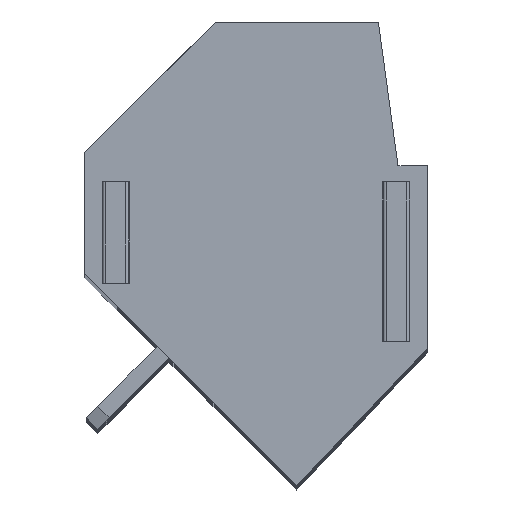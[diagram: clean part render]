
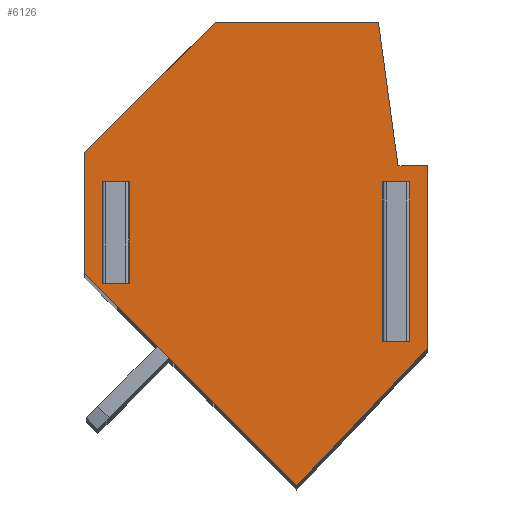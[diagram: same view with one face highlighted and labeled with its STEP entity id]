
A CAD part, top view. The second image highlights one B-rep face of the part: STEP entity #6126.
In plain terms, the highlighted planar face has unit normal (0, 0, 1).
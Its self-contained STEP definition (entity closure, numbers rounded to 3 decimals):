
#4382 = VERTEX_POINT ( 'NONE', #28915 ) ;
#4384 = EDGE_CURVE ( 'NONE', #4399, #4382, #28914, .T. ) ;
#4387 = EDGE_CURVE ( 'NONE', #4388, #4412, #28904, .T. ) ;
#4388 = VERTEX_POINT ( 'NONE', #28900 ) ;
#4399 = VERTEX_POINT ( 'NONE', #28949 ) ;
#4402 = VERTEX_POINT ( 'NONE', #28944 ) ;
#4404 = EDGE_CURVE ( 'NONE', #4405, #4402, #28943, .T. ) ;
#4405 = VERTEX_POINT ( 'NONE', #28939 ) ;
#4412 = VERTEX_POINT ( 'NONE', #28923 ) ;
#4420 = EDGE_CURVE ( 'NONE', #4435, #4445, #28986, .T. ) ;
#4429 = VERTEX_POINT ( 'NONE', #28969 ) ;
#4435 = VERTEX_POINT ( 'NONE', #28964 ) ;
#4437 = EDGE_CURVE ( 'NONE', #4438, #4435, #28963, .T. ) ;
#4438 = VERTEX_POINT ( 'NONE', #28959 ) ;
#4445 = VERTEX_POINT ( 'NONE', #29014 ) ;
#4451 = EDGE_CURVE ( 'NONE', #4382, #4388, #29013, .T. ) ;
#4457 = EDGE_CURVE ( 'NONE', #4412, #4399, #29003, .T. ) ;
#4476 = VERTEX_POINT ( 'NONE', #29037 ) ;
#4478 = EDGE_CURVE ( 'NONE', #4479, #4476, #29036, .T. ) ;
#4479 = VERTEX_POINT ( 'NONE', #29031 ) ;
#4487 = EDGE_CURVE ( 'NONE', #4445, #4429, #29085, .T. ) ;
#4496 = EDGE_CURVE ( 'NONE', #4429, #4438, #29075, .T. ) ;
#4908 = EDGE_CURVE ( 'NONE', #4979, #4405, #29517, .T. ) ;
#4979 = VERTEX_POINT ( 'NONE', #29594 ) ;
#5153 = EDGE_CURVE ( 'NONE', #4402, #4479, #29702, .T. ) ;
#5185 = VERTEX_POINT ( 'NONE', #29731 ) ;
#5190 = EDGE_CURVE ( 'NONE', #5185, #4979, #29792, .T. ) ;
#5976 = EDGE_CURVE ( 'NONE', #5977, #5185, #32137, .T. ) ;
#5977 = VERTEX_POINT ( 'NONE', #32133 ) ;
#6115 = EDGE_CURVE ( 'NONE', #6183, #4476, #32210, .T. ) ;
#6126 = ADVANCED_FACE ( 'NONE', ( #32250, #32249, #32248 ), #32247, .T. ) ;
#6127 = EDGE_LOOP ( 'NONE', ( #6195, #6196, #6197, #6198 ) ) ;
#6183 = VERTEX_POINT ( 'NONE', #32269 ) ;
#6184 = ORIENTED_EDGE ( 'NONE', *, *, #6185, .F. ) ;
#6185 = EDGE_CURVE ( 'NONE', #5977, #6183, #32268, .T. ) ;
#6186 = ORIENTED_EDGE ( 'NONE', *, *, #5976, .T. ) ;
#6187 = ORIENTED_EDGE ( 'NONE', *, *, #5190, .T. ) ;
#6188 = ORIENTED_EDGE ( 'NONE', *, *, #4908, .T. ) ;
#6189 = ORIENTED_EDGE ( 'NONE', *, *, #4404, .T. ) ;
#6191 = ORIENTED_EDGE ( 'NONE', *, *, #5153, .T. ) ;
#6192 = ORIENTED_EDGE ( 'NONE', *, *, #4478, .T. ) ;
#6195 = ORIENTED_EDGE ( 'NONE', *, *, #4487, .T. ) ;
#6196 = ORIENTED_EDGE ( 'NONE', *, *, #4496, .T. ) ;
#6197 = ORIENTED_EDGE ( 'NONE', *, *, #4437, .T. ) ;
#6198 = ORIENTED_EDGE ( 'NONE', *, *, #4420, .T. ) ;
#6199 = EDGE_LOOP ( 'NONE', ( #6200, #6201, #6202, #6203 ) ) ;
#6200 = ORIENTED_EDGE ( 'NONE', *, *, #4384, .T. ) ;
#6201 = ORIENTED_EDGE ( 'NONE', *, *, #4451, .T. ) ;
#6202 = ORIENTED_EDGE ( 'NONE', *, *, #4387, .T. ) ;
#6203 = ORIENTED_EDGE ( 'NONE', *, *, #4457, .T. ) ;
#6204 = EDGE_LOOP ( 'NONE', ( #6205, #6184, #6186, #6187, #6188, #6189, #6191, #6192 ) ) ;
#6205 = ORIENTED_EDGE ( 'NONE', *, *, #6115, .F. ) ;
#28900 = CARTESIAN_POINT ( 'NONE',  ( 3.051, 3., 0. ) ) ;
#28901 = DIRECTION ( 'NONE',  ( 0., -1., 0. ) ) ;
#28902 = VECTOR ( 'NONE', #28901, 1000. ) ;
#28903 = CARTESIAN_POINT ( 'NONE',  ( 3.051, 0.8, 0. ) ) ;
#28904 = LINE ( 'NONE', #28903, #28902 ) ;
#28911 = DIRECTION ( 'NONE',  ( 0., 1., 0. ) ) ;
#28912 = VECTOR ( 'NONE', #28911, 1000. ) ;
#28913 = CARTESIAN_POINT ( 'NONE',  ( 2.651, 0.8, 0. ) ) ;
#28914 = LINE ( 'NONE', #28913, #28912 ) ;
#28915 = CARTESIAN_POINT ( 'NONE',  ( 2.651, 3., 0. ) ) ;
#28923 = CARTESIAN_POINT ( 'NONE',  ( 3.051, -1.9, 0. ) ) ;
#28939 = CARTESIAN_POINT ( 'NONE',  ( -0.199, -6.3, 0. ) ) ;
#28940 = DIRECTION ( 'NONE',  ( 0.69, 0.724, 0. ) ) ;
#28941 = VECTOR ( 'NONE', #28940, 1000. ) ;
#28942 = CARTESIAN_POINT ( 'NONE',  ( -0.199, -6.3, 0. ) ) ;
#28943 = LINE ( 'NONE', #28942, #28941 ) ;
#28944 = CARTESIAN_POINT ( 'NONE',  ( 3.801, -2.1, 0. ) ) ;
#28949 = CARTESIAN_POINT ( 'NONE',  ( 2.651, -1.9, 0. ) ) ;
#28959 = CARTESIAN_POINT ( 'NONE',  ( -5.949, 3., 0. ) ) ;
#28960 = DIRECTION ( 'NONE',  ( 1., 0., 0. ) ) ;
#28961 = VECTOR ( 'NONE', #28960, 1000. ) ;
#28962 = CARTESIAN_POINT ( 'NONE',  ( -1.449, 3., 0. ) ) ;
#28963 = LINE ( 'NONE', #28962, #28961 ) ;
#28964 = CARTESIAN_POINT ( 'NONE',  ( -5.549, 3., 0. ) ) ;
#28969 = CARTESIAN_POINT ( 'NONE',  ( -5.949, -0.1, 0. ) ) ;
#28983 = DIRECTION ( 'NONE',  ( 0., -1., 0. ) ) ;
#28984 = VECTOR ( 'NONE', #28983, 1000. ) ;
#28985 = CARTESIAN_POINT ( 'NONE',  ( -5.549, 0.8, 0. ) ) ;
#28986 = LINE ( 'NONE', #28985, #28984 ) ;
#29000 = DIRECTION ( 'NONE',  ( -1., 0., 0. ) ) ;
#29001 = VECTOR ( 'NONE', #29000, 1000. ) ;
#29002 = CARTESIAN_POINT ( 'NONE',  ( -1.449, -1.9, 0. ) ) ;
#29003 = LINE ( 'NONE', #29002, #29001 ) ;
#29010 = DIRECTION ( 'NONE',  ( 1., 0., 0. ) ) ;
#29011 = VECTOR ( 'NONE', #29010, 1000. ) ;
#29012 = CARTESIAN_POINT ( 'NONE',  ( -1.449, 3., 0. ) ) ;
#29013 = LINE ( 'NONE', #29012, #29011 ) ;
#29014 = CARTESIAN_POINT ( 'NONE',  ( -5.549, -0.1, 0. ) ) ;
#29031 = CARTESIAN_POINT ( 'NONE',  ( 3.801, 3.5, 0. ) ) ;
#29033 = DIRECTION ( 'NONE',  ( -1., 0., 0. ) ) ;
#29034 = VECTOR ( 'NONE', #29033, 1000. ) ;
#29035 = CARTESIAN_POINT ( 'NONE',  ( -1.449, 3.5, 0. ) ) ;
#29036 = LINE ( 'NONE', #29035, #29034 ) ;
#29037 = CARTESIAN_POINT ( 'NONE',  ( 2.901, 3.5, 0. ) ) ;
#29072 = DIRECTION ( 'NONE',  ( 0., 1., 0. ) ) ;
#29073 = VECTOR ( 'NONE', #29072, 1000. ) ;
#29074 = CARTESIAN_POINT ( 'NONE',  ( -5.949, 0.8, 0. ) ) ;
#29075 = LINE ( 'NONE', #29074, #29073 ) ;
#29082 = DIRECTION ( 'NONE',  ( -1., 0., 0. ) ) ;
#29083 = VECTOR ( 'NONE', #29082, 1000. ) ;
#29084 = CARTESIAN_POINT ( 'NONE',  ( -1.449, -0.1, 0. ) ) ;
#29085 = LINE ( 'NONE', #29084, #29083 ) ;
#29514 = DIRECTION ( 'NONE',  ( 0.707, -0.707, 0. ) ) ;
#29515 = VECTOR ( 'NONE', #29514, 1000. ) ;
#29516 = CARTESIAN_POINT ( 'NONE',  ( -6.699, 0.2, 0. ) ) ;
#29517 = LINE ( 'NONE', #29516, #29515 ) ;
#29594 = CARTESIAN_POINT ( 'NONE',  ( -6.699, 0.2, 0. ) ) ;
#29699 = DIRECTION ( 'NONE',  ( 0., 1., 0. ) ) ;
#29700 = VECTOR ( 'NONE', #29699, 1000. ) ;
#29701 = CARTESIAN_POINT ( 'NONE',  ( 3.801, 0.8, 0. ) ) ;
#29702 = LINE ( 'NONE', #29701, #29700 ) ;
#29731 = CARTESIAN_POINT ( 'NONE',  ( -6.699, 3.9, 0. ) ) ;
#29789 = DIRECTION ( 'NONE',  ( 0., -1., 0. ) ) ;
#29790 = VECTOR ( 'NONE', #29789, 1000. ) ;
#29791 = CARTESIAN_POINT ( 'NONE',  ( -6.699, 0.8, 0. ) ) ;
#29792 = LINE ( 'NONE', #29791, #29790 ) ;
#32133 = CARTESIAN_POINT ( 'NONE',  ( -2.699, 7.9, 0. ) ) ;
#32134 = DIRECTION ( 'NONE',  ( -0.707, -0.707, 0. ) ) ;
#32135 = VECTOR ( 'NONE', #32134, 1000. ) ;
#32136 = CARTESIAN_POINT ( 'NONE',  ( -2.699, 7.9, 0. ) ) ;
#32137 = LINE ( 'NONE', #32136, #32135 ) ;
#32207 = DIRECTION ( 'NONE',  ( 0.135, -0.991, 0. ) ) ;
#32208 = VECTOR ( 'NONE', #32207, 1000. ) ;
#32209 = CARTESIAN_POINT ( 'NONE',  ( 2.601, 5.7, 0. ) ) ;
#32210 = LINE ( 'NONE', #32209, #32208 ) ;
#32243 = DIRECTION ( 'NONE',  ( 1., 0., 0. ) ) ;
#32244 = DIRECTION ( 'NONE',  ( 0., 0., 1. ) ) ;
#32245 = CARTESIAN_POINT ( 'NONE',  ( -6.699, -6.3, 0. ) ) ;
#32246 = AXIS2_PLACEMENT_3D ( 'NONE', #32245, #32244, #32243 ) ;
#32247 = PLANE ( 'NONE',  #32246 ) ;
#32248 = FACE_OUTER_BOUND ( 'NONE', #6204, .T. ) ;
#32249 = FACE_BOUND ( 'NONE', #6199, .T. ) ;
#32250 = FACE_BOUND ( 'NONE', #6127, .T. ) ;
#32265 = DIRECTION ( 'NONE',  ( 1., 0., 0. ) ) ;
#32266 = VECTOR ( 'NONE', #32265, 1000. ) ;
#32267 = CARTESIAN_POINT ( 'NONE',  ( -2.699, 7.9, 0. ) ) ;
#32268 = LINE ( 'NONE', #32267, #32266 ) ;
#32269 = CARTESIAN_POINT ( 'NONE',  ( 2.301, 7.9, 0. ) ) ;
